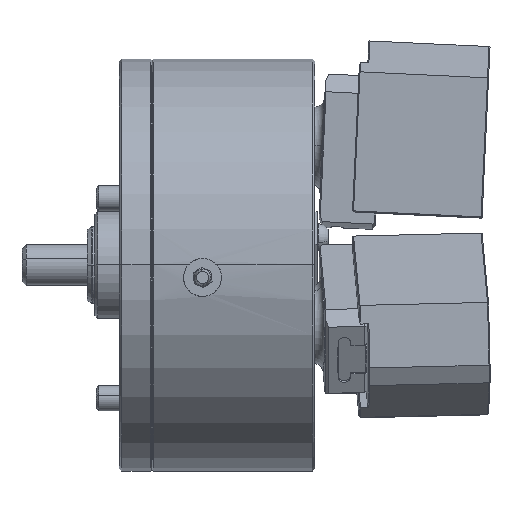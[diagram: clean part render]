
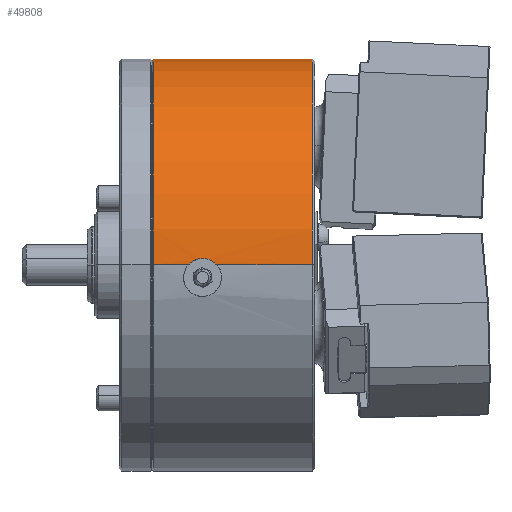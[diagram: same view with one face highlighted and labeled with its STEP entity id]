
A CAD part, top view. The second image highlights one B-rep face of the part: STEP entity #49808.
In plain terms, the highlighted cylindrical face has radius 81 mm (diameter 162 mm), a partial arc.
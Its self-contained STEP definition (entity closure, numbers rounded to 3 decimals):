
#824 = EDGE_CURVE ( 'NONE', #30501, #34772, #30633, .T. ) ;
#866 = AXIS2_PLACEMENT_3D ( 'NONE', #3262, #31830, #7338 ) ;
#1370 = CARTESIAN_POINT ( 'NONE',  ( -47.746, 1.63, 80.984 ) ) ;
#1563 = CARTESIAN_POINT ( 'NONE',  ( -41.382, 1.955, 80.976 ) ) ;
#3262 = CARTESIAN_POINT ( 'NONE',  ( -63.6, 0., 0. ) ) ;
#3333 = CARTESIAN_POINT ( 'NONE',  ( -30.978, 0., 81. ) ) ;
#4637 = B_SPLINE_CURVE_WITH_KNOTS ( 'NONE', 3,
 ( #50354, #13487, #37991, #25808, #1370, #29945, #5453, #34063, #9556, #38162, #13671, #42246, #17778, #46398, #21880, #50527, #25988, #1563, #30114, #5628, #34245, #9733, #38339 ),
 .UNSPECIFIED., .F., .F.,
 ( 4, 2, 2, 2, 1, 2, 2, 2, 2, 2, 2, 4 ),
 ( 0.034, 0.036, 0.038, 0.038, 0.039, 0.04, 0.041, 0.042, 0.043, 0.044, 0.045, 0.047 ),
 .UNSPECIFIED. ) ;
#5453 = CARTESIAN_POINT ( 'NONE',  ( -46.775, 2.049, 80.974 ) ) ;
#5470 = DIRECTION ( 'NONE',  ( 0., 0., 1. ) ) ;
#5628 = CARTESIAN_POINT ( 'NONE',  ( -40.21, 1.373, 80.989 ) ) ;
#7338 = DIRECTION ( 'NONE',  ( 0., 0., 1. ) ) ;
#7808 = ORIENTED_EDGE ( 'NONE', *, *, #16432, .T. ) ;
#9284 = VECTOR ( 'NONE', #25010, 1000. ) ;
#9556 = CARTESIAN_POINT ( 'NONE',  ( -45.771, 2.348, 80.966 ) ) ;
#9578 = CARTESIAN_POINT ( 'NONE',  ( -30.978, 0., 0. ) ) ;
#9621 = ORIENTED_EDGE ( 'NONE', *, *, #40288, .F. ) ;
#9733 = CARTESIAN_POINT ( 'NONE',  ( -38.963, 0.395, 81. ) ) ;
#13487 = CARTESIAN_POINT ( 'NONE',  ( -49.441, 0.39, 81. ) ) ;
#13539 = CARTESIAN_POINT ( 'NONE',  ( -38.61, 0., 81. ) ) ;
#13671 = CARTESIAN_POINT ( 'NONE',  ( -44.73, 2.486, 80.962 ) ) ;
#13690 = DIRECTION ( 'NONE',  ( -1., 0., 0. ) ) ;
#15969 = VERTEX_POINT ( 'NONE', #28050 ) ;
#16432 = EDGE_CURVE ( 'NONE', #30501, #43420, #4637, .T. ) ;
#17778 = CARTESIAN_POINT ( 'NONE',  ( -43.675, 2.5, 80.961 ) ) ;
#18477 = VECTOR ( 'NONE', #39769, 1000. ) ;
#20728 = CARTESIAN_POINT ( 'NONE',  ( -63.6, 0., 81. ) ) ;
#21880 = CARTESIAN_POINT ( 'NONE',  ( -42.385, 2.282, 80.968 ) ) ;
#23772 = EDGE_CURVE ( 'NONE', #49970, #15969, #31161, .T. ) ;
#25010 = DIRECTION ( 'NONE',  ( -1., 0., 0. ) ) ;
#25808 = CARTESIAN_POINT ( 'NONE',  ( -48.198, 1.367, 80.989 ) ) ;
#25988 = CARTESIAN_POINT ( 'NONE',  ( -41.626, 2.05, 80.974 ) ) ;
#26109 = ORIENTED_EDGE ( 'NONE', *, *, #23772, .T. ) ;
#26919 = VECTOR ( 'NONE', #29566, 1000. ) ;
#28050 = CARTESIAN_POINT ( 'NONE',  ( -1., 0., -81. ) ) ;
#28190 = LINE ( 'NONE', #41691, #26919 ) ;
#28916 = ORIENTED_EDGE ( 'NONE', *, *, #33220, .F. ) ;
#29566 = DIRECTION ( 'NONE',  ( -1., 0., 0. ) ) ;
#29778 = ORIENTED_EDGE ( 'NONE', *, *, #50470, .T. ) ;
#29945 = CARTESIAN_POINT ( 'NONE',  ( -47.023, 1.953, 80.977 ) ) ;
#30114 = CARTESIAN_POINT ( 'NONE',  ( -40.665, 1.635, 80.984 ) ) ;
#30456 = AXIS2_PLACEMENT_3D ( 'NONE', #9578, #42269, #5470 ) ;
#30501 = VERTEX_POINT ( 'NONE', #49524 ) ;
#30633 = LINE ( 'NONE', #3333, #18477 ) ;
#31161 = CIRCLE ( 'NONE', #51598, 81. ) ;
#31830 = DIRECTION ( 'NONE',  ( -1., 0., 0. ) ) ;
#33220 = EDGE_CURVE ( 'NONE', #34772, #36972, #34061, .T. ) ;
#33256 = CARTESIAN_POINT ( 'NONE',  ( -30.978, 0., -81. ) ) ;
#34061 = CIRCLE ( 'NONE', #866, 81. ) ;
#34063 = CARTESIAN_POINT ( 'NONE',  ( -46.276, 2.212, 80.97 ) ) ;
#34245 = CARTESIAN_POINT ( 'NONE',  ( -39.354, 0.749, 80.997 ) ) ;
#34772 = VERTEX_POINT ( 'NONE', #20728 ) ;
#35776 = EDGE_LOOP ( 'NONE', ( #26109, #29778, #28916, #46294, #7808, #9621 ) ) ;
#36972 = VERTEX_POINT ( 'NONE', #42251 ) ;
#37991 = CARTESIAN_POINT ( 'NONE',  ( -49.045, 0.749, 80.997 ) ) ;
#38162 = CARTESIAN_POINT ( 'NONE',  ( -45.254, 2.43, 80.964 ) ) ;
#38178 = CARTESIAN_POINT ( 'NONE',  ( -1., 0., 0. ) ) ;
#38339 = CARTESIAN_POINT ( 'NONE',  ( -38.61, 0., 81. ) ) ;
#39769 = DIRECTION ( 'NONE',  ( -1., 0., 0. ) ) ;
#40288 = EDGE_CURVE ( 'NONE', #49970, #43420, #28190, .T. ) ;
#40589 = LINE ( 'NONE', #33256, #9284 ) ;
#40637 = CYLINDRICAL_SURFACE ( 'NONE', #30456, 81. ) ;
#41172 = CARTESIAN_POINT ( 'NONE',  ( -1., 0., 81. ) ) ;
#41691 = CARTESIAN_POINT ( 'NONE',  ( -30.978, 0., 81. ) ) ;
#41942 = FACE_OUTER_BOUND ( 'NONE', #35776, .T. ) ;
#42246 = CARTESIAN_POINT ( 'NONE',  ( -44.464, 2.5, 80.961 ) ) ;
#42251 = CARTESIAN_POINT ( 'NONE',  ( -63.6, 0., -81. ) ) ;
#42267 = DIRECTION ( 'NONE',  ( 0., 0., 1. ) ) ;
#42269 = DIRECTION ( 'NONE',  ( -1., 0., 0. ) ) ;
#43420 = VERTEX_POINT ( 'NONE', #13539 ) ;
#46294 = ORIENTED_EDGE ( 'NONE', *, *, #824, .F. ) ;
#46398 = CARTESIAN_POINT ( 'NONE',  ( -43.155, 2.445, 80.963 ) ) ;
#49524 = CARTESIAN_POINT ( 'NONE',  ( -49.79, 0., 81. ) ) ;
#49808 = ADVANCED_FACE ( 'NONE', ( #41942 ), #40637, .T. ) ;
#49970 = VERTEX_POINT ( 'NONE', #41172 ) ;
#50354 = CARTESIAN_POINT ( 'NONE',  ( -49.79, 0., 81. ) ) ;
#50470 = EDGE_CURVE ( 'NONE', #15969, #36972, #40589, .T. ) ;
#50527 = CARTESIAN_POINT ( 'NONE',  ( -42.128, 2.213, 80.97 ) ) ;
#51598 = AXIS2_PLACEMENT_3D ( 'NONE', #38178, #13690, #42267 ) ;
